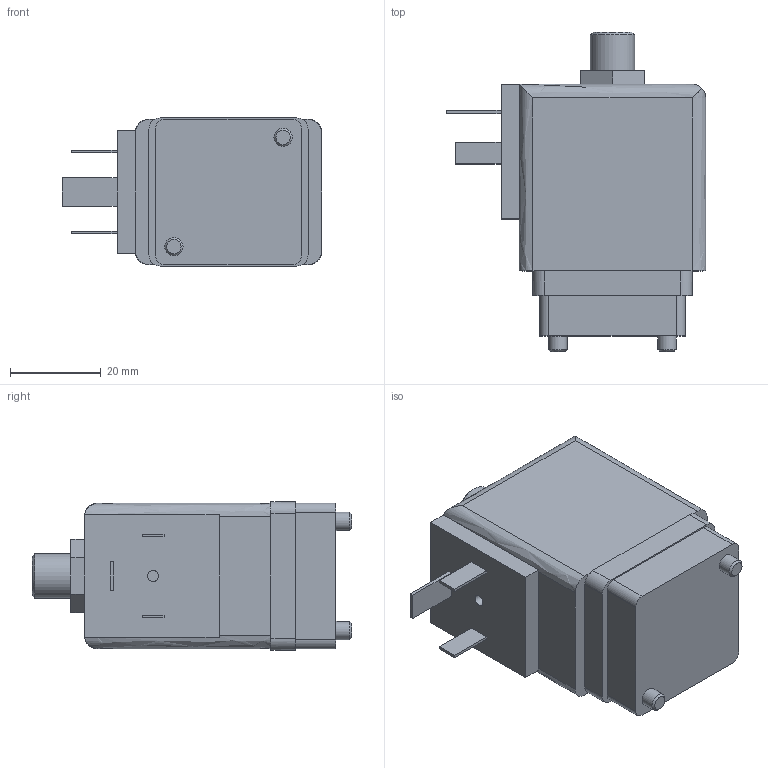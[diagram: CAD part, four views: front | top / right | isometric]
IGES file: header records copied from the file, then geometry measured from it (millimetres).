
Start section: Data from Parasolid IGES Translator 26.0.171, Copyright(c) 2006 Siemens PLM Software. All Rights Reserved.
Global section: file name: 6014-126393-3_2-way_Solenoid_Valve_direct-acting.igs; native system: By Siemens PLM Incorporated; preprocessor: XPlus GENERIC/IGES 26.0.171; author: Noname; organization: Noname; date: 20240805.214615; units: millimetre
Bounding box: 57.05 x 70.3 x 32.6 mm (x, y, z)
Surface area: 11514 mm2 (no closed solid volume)
Topology: 0 solids, 0 shells, 73 faces, 368 edges, 365 vertices
Faces by surface type: extrusion 51, revolution 22
